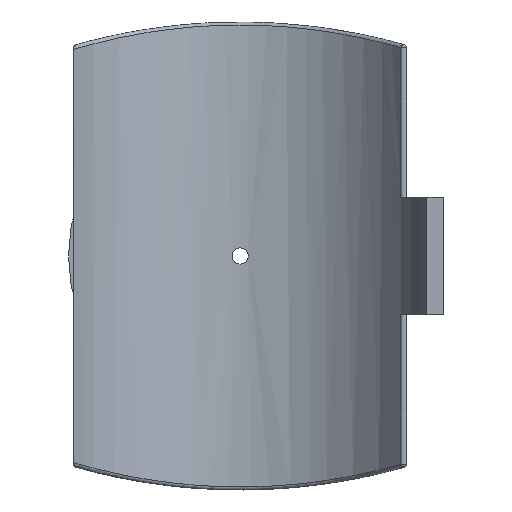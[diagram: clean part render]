
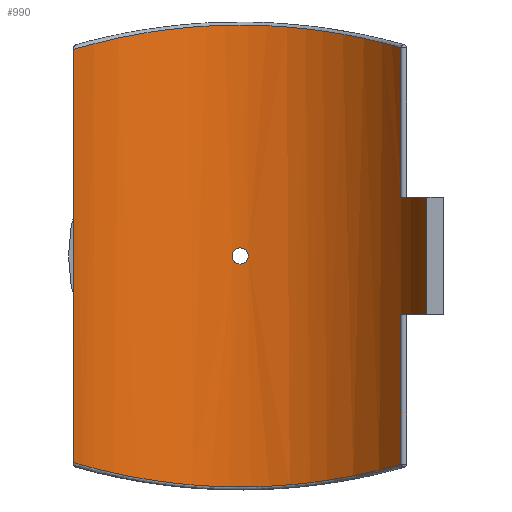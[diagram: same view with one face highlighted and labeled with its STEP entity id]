
A CAD part, front view. The second image highlights one B-rep face of the part: STEP entity #990.
In plain terms, the highlighted cylindrical face has radius 125 mm (diameter 250 mm), a partial arc.
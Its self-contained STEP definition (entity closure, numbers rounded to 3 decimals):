
#55=FACE_BOUND('',#331,.T.);
#101=B_SPLINE_CURVE_WITH_KNOTS('',3,(#2068,#2069,#2070,#2071,#2072,#2073,
#2074,#2075,#2076,#2077),.UNSPECIFIED.,.F.,.F.,(4,1,1,1,1,1,1,4),(-29.709,
-26.068,-22.426,-18.784,-15.143,-11.501,
-7.859,-4.218),.UNSPECIFIED.);
#102=B_SPLINE_CURVE_WITH_KNOTS('',3,(#2086,#2087,#2088,#2089,#2090,#2091,
#2092,#2093,#2094,#2095),.UNSPECIFIED.,.F.,.F.,(4,1,1,1,1,1,1,4),(-27.039,
-23.397,-19.755,-16.114,-12.472,
-8.831,-5.189,-1.547),.UNSPECIFIED.);
#103=B_SPLINE_CURVE_WITH_KNOTS('',3,(#2098,#2099,#2100,#2101,#2102,#2103,
#2104,#2105,#2106,#2107),.UNSPECIFIED.,.F.,.F.,(4,2,2,2,4),(0.,0.196,
0.392,0.588,0.784),.UNSPECIFIED.);
#104=B_SPLINE_CURVE_WITH_KNOTS('',3,(#2108,#2109,#2110,#2111,#2112,#2113,
#2114,#2115,#2116,#2117,#2118,#2119,#2120,#2121,#2122,#2123,#2124,#2125,
#2126,#2127,#2128,#2129,#2130,#2131,#2132,#2133),.UNSPECIFIED.,.F.,.F.,
(4,2,2,2,2,2,2,2,2,2,2,2,4),(0.784,0.98,1.175,
1.371,1.567,1.763,1.959,2.155,
2.351,2.547,2.743,2.939,3.134),
 .UNSPECIFIED.);
#125=LINE('',#1483,#172);
#136=LINE('',#1767,#183);
#143=LINE('',#2082,#190);
#144=LINE('',#2085,#191);
#172=VECTOR('',#1188,10.);
#183=VECTOR('',#1227,10.);
#190=VECTOR('',#1264,10.);
#191=VECTOR('',#1267,10.);
#228=CYLINDRICAL_SURFACE('',#1083,125.);
#268=FACE_OUTER_BOUND('',#330,.T.);
#330=EDGE_LOOP('',(#775,#776,#777,#778,#779,#780,#781,#782));
#331=EDGE_LOOP('',(#783,#784));
#413=CIRCLE('',#1084,125.);
#414=CIRCLE('',#1085,125.);
#466=VERTEX_POINT('',#1474);
#469=VERTEX_POINT('',#1481);
#489=VERTEX_POINT('',#1760);
#492=VERTEX_POINT('',#1765);
#505=VERTEX_POINT('',#2059);
#506=VERTEX_POINT('',#2079);
#507=VERTEX_POINT('',#2081);
#508=VERTEX_POINT('',#2084);
#509=VERTEX_POINT('',#2096);
#510=VERTEX_POINT('',#2097);
#561=EDGE_CURVE('',#469,#466,#125,.T.);
#591=EDGE_CURVE('',#492,#489,#136,.T.);
#614=EDGE_CURVE('',#505,#492,#101,.T.);
#615=EDGE_CURVE('',#506,#469,#413,.T.);
#616=EDGE_CURVE('',#506,#507,#143,.T.);
#617=EDGE_CURVE('',#489,#507,#414,.T.);
#618=EDGE_CURVE('',#508,#505,#144,.T.);
#619=EDGE_CURVE('',#466,#508,#102,.T.);
#620=EDGE_CURVE('',#509,#510,#103,.T.);
#621=EDGE_CURVE('',#510,#509,#104,.T.);
#775=ORIENTED_EDGE('',*,*,#615,.F.);
#776=ORIENTED_EDGE('',*,*,#616,.T.);
#777=ORIENTED_EDGE('',*,*,#617,.F.);
#778=ORIENTED_EDGE('',*,*,#591,.F.);
#779=ORIENTED_EDGE('',*,*,#614,.F.);
#780=ORIENTED_EDGE('',*,*,#618,.F.);
#781=ORIENTED_EDGE('',*,*,#619,.F.);
#782=ORIENTED_EDGE('',*,*,#561,.F.);
#783=ORIENTED_EDGE('',*,*,#620,.T.);
#784=ORIENTED_EDGE('',*,*,#621,.T.);
#990=ADVANCED_FACE('',(#268,#55),#228,.F.);
#1083=AXIS2_PLACEMENT_3D('',#2078,#1260,#1261);
#1084=AXIS2_PLACEMENT_3D('',#2080,#1262,#1263);
#1085=AXIS2_PLACEMENT_3D('',#2083,#1265,#1266);
#1188=DIRECTION('',(0.,0.,-1.));
#1227=DIRECTION('',(0.,0.,-1.));
#1260=DIRECTION('center_axis',(0.,0.,1.));
#1261=DIRECTION('ref_axis',(-1.,0.,0.));
#1262=DIRECTION('center_axis',(0.,0.,1.));
#1263=DIRECTION('ref_axis',(-0.957,-0.289,0.));
#1264=DIRECTION('',(0.,0.,1.));
#1265=DIRECTION('center_axis',(0.,0.,-1.));
#1266=DIRECTION('ref_axis',(-0.957,-0.289,0.));
#1267=DIRECTION('',(0.,0.,1.));
#1474=CARTESIAN_POINT('',(103.002,70.821,-133.49));
#1481=CARTESIAN_POINT('',(103.002,70.821,-37.5));
#1483=CARTESIAN_POINT('',(103.002,70.821,0.));
#1760=CARTESIAN_POINT('',(103.002,70.821,37.5));
#1765=CARTESIAN_POINT('',(103.002,70.821,133.49));
#1767=CARTESIAN_POINT('',(103.002,70.821,0.));
#2059=CARTESIAN_POINT('',(-106.65,65.198,132.422));
#2068=CARTESIAN_POINT('Ctrl Pts',(-106.65,65.198,132.422));
#2069=CARTESIAN_POINT('Ctrl Pts',(-100.49,75.275,134.26));
#2070=CARTESIAN_POINT('Ctrl Pts',(-85.347,93.604,138.433));
#2071=CARTESIAN_POINT('Ctrl Pts',(-55.819,113.737,144.279));
#2072=CARTESIAN_POINT('Ctrl Pts',(-21.527,124.883,147.953));
#2073=CARTESIAN_POINT('Ctrl Pts',(14.719,125.873,148.295));
#2074=CARTESIAN_POINT('Ctrl Pts',(49.618,116.581,145.187));
#2075=CARTESIAN_POINT('Ctrl Pts',(80.225,98.032,139.629));
#2076=CARTESIAN_POINT('Ctrl Pts',(96.318,80.542,135.41));
#2077=CARTESIAN_POINT('Ctrl Pts',(103.002,70.821,133.49));
#2078=CARTESIAN_POINT('Origin',(0.,0.,0.));
#2079=CARTESIAN_POINT('',(119.681,36.077,-37.5));
#2080=CARTESIAN_POINT('Origin',(0.,0.,
-37.5));
#2081=CARTESIAN_POINT('',(119.681,36.077,37.5));
#2082=CARTESIAN_POINT('',(119.681,36.077,0.));
#2083=CARTESIAN_POINT('Origin',(0.,0.,
37.5));
#2084=CARTESIAN_POINT('',(-106.65,65.198,-132.422));
#2085=CARTESIAN_POINT('',(-106.65,65.198,0.));
#2086=CARTESIAN_POINT('Ctrl Pts',(103.002,70.821,-133.49));
#2087=CARTESIAN_POINT('Ctrl Pts',(96.318,80.542,-135.41));
#2088=CARTESIAN_POINT('Ctrl Pts',(80.225,98.032,-139.629));
#2089=CARTESIAN_POINT('Ctrl Pts',(49.619,116.582,-145.188));
#2090=CARTESIAN_POINT('Ctrl Pts',(14.718,125.871,-148.293));
#2091=CARTESIAN_POINT('Ctrl Pts',(-21.529,124.885,-147.955));
#2092=CARTESIAN_POINT('Ctrl Pts',(-55.817,113.736,-144.278));
#2093=CARTESIAN_POINT('Ctrl Pts',(-85.348,93.604,-138.433));
#2094=CARTESIAN_POINT('Ctrl Pts',(-100.49,75.275,-134.26));
#2095=CARTESIAN_POINT('Ctrl Pts',(-106.65,65.198,-132.422));
#2096=CARTESIAN_POINT('',(5.2,124.892,0.));
#2097=CARTESIAN_POINT('',(0.,125.,-5.2));
#2098=CARTESIAN_POINT('Ctrl Pts',(5.2,124.892,0.));
#2099=CARTESIAN_POINT('Ctrl Pts',(5.2,124.892,-0.653));
#2100=CARTESIAN_POINT('Ctrl Pts',(5.069,124.897,-1.349));
#2101=CARTESIAN_POINT('Ctrl Pts',(4.539,124.918,-2.631));
#2102=CARTESIAN_POINT('Ctrl Pts',(4.139,124.932,-3.215));
#2103=CARTESIAN_POINT('Ctrl Pts',(3.215,124.959,-4.139));
#2104=CARTESIAN_POINT('Ctrl Pts',(2.631,124.974,-4.539));
#2105=CARTESIAN_POINT('Ctrl Pts',(1.349,124.994,-5.069));
#2106=CARTESIAN_POINT('Ctrl Pts',(0.653,125.,-5.2));
#2107=CARTESIAN_POINT('Ctrl Pts',(0.,125.,-5.2));
#2108=CARTESIAN_POINT('Ctrl Pts',(0.,125.,-5.2));
#2109=CARTESIAN_POINT('Ctrl Pts',(-0.653,125.,-5.2));
#2110=CARTESIAN_POINT('Ctrl Pts',(-1.349,124.994,-5.069));
#2111=CARTESIAN_POINT('Ctrl Pts',(-2.631,124.974,-4.539));
#2112=CARTESIAN_POINT('Ctrl Pts',(-3.215,124.959,-4.139));
#2113=CARTESIAN_POINT('Ctrl Pts',(-4.139,124.932,-3.215));
#2114=CARTESIAN_POINT('Ctrl Pts',(-4.539,124.918,-2.631));
#2115=CARTESIAN_POINT('Ctrl Pts',(-5.069,124.897,-1.349));
#2116=CARTESIAN_POINT('Ctrl Pts',(-5.2,124.892,-0.653));
#2117=CARTESIAN_POINT('Ctrl Pts',(-5.2,124.892,0.653));
#2118=CARTESIAN_POINT('Ctrl Pts',(-5.069,124.897,1.349));
#2119=CARTESIAN_POINT('Ctrl Pts',(-4.539,124.918,2.631));
#2120=CARTESIAN_POINT('Ctrl Pts',(-4.139,124.932,3.215));
#2121=CARTESIAN_POINT('Ctrl Pts',(-3.215,124.959,4.139));
#2122=CARTESIAN_POINT('Ctrl Pts',(-2.631,124.974,4.539));
#2123=CARTESIAN_POINT('Ctrl Pts',(-1.349,124.994,5.069));
#2124=CARTESIAN_POINT('Ctrl Pts',(-0.653,125.,5.2));
#2125=CARTESIAN_POINT('Ctrl Pts',(0.653,125.,5.2));
#2126=CARTESIAN_POINT('Ctrl Pts',(1.349,124.994,5.069));
#2127=CARTESIAN_POINT('Ctrl Pts',(2.631,124.974,4.539));
#2128=CARTESIAN_POINT('Ctrl Pts',(3.215,124.959,4.139));
#2129=CARTESIAN_POINT('Ctrl Pts',(4.139,124.932,3.215));
#2130=CARTESIAN_POINT('Ctrl Pts',(4.539,124.918,2.631));
#2131=CARTESIAN_POINT('Ctrl Pts',(5.069,124.897,1.349));
#2132=CARTESIAN_POINT('Ctrl Pts',(5.2,124.892,0.653));
#2133=CARTESIAN_POINT('Ctrl Pts',(5.2,124.892,0.));
